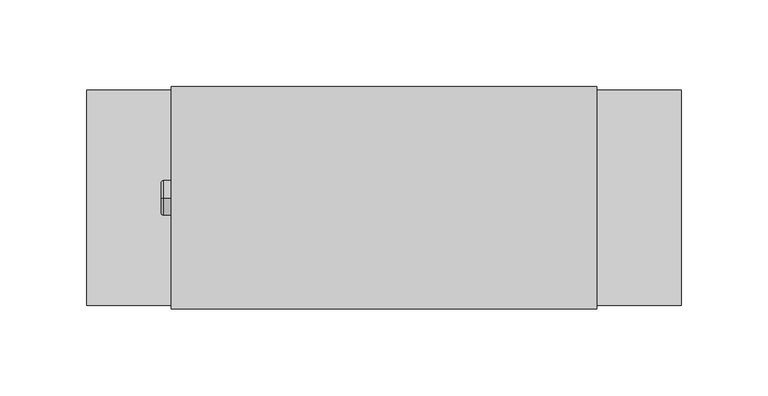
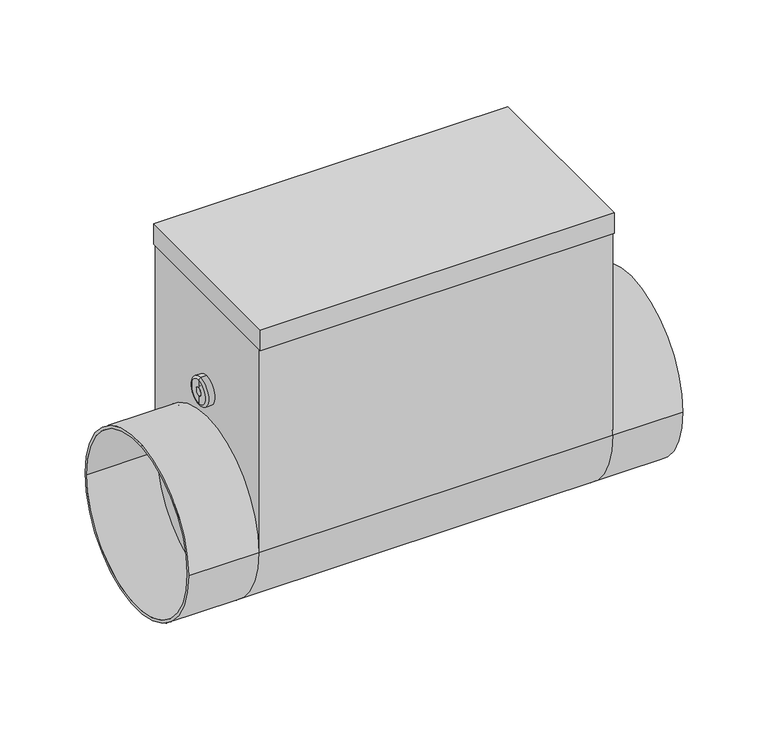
"""IFC4 building model written with IfcOpenShell, lengths in millimetres: proxy geometry."""

from ifc_helpers import new_model, si_unit, point, frame, origin, place, context, project, spatial, polyline, circle_curve, ellipse_curve, trimmed, outline, extrude, source, transform, mapped, element, save
from ifc_brep_helpers import plane_surface, cylinder_surface, revolved_surface, advanced_brep


def mechanical_equipment_6952d556(model_context):
    return source(origin(), model_context, "Body", "SolidModel", [
        extrude(outline(polyline([(122.5, -64.0), (-122.5, -64.0), (-122.5, 64.0), (122.5, 64.0), (122.5, -64.0)])), frame((0.0, 0.0, 149.0), z_axis=(0.0, 0.0, 1.0), x_axis=(1.0, 0.0, 0.0)), (0.0, 0.0, 1.0), 15.0),
        advanced_brep(
        [(-171.0, -62.0, 0.0), (-171.0, 62.0, 0.0), (-171.0, -60.0, 0.0), (-171.0, 60.0, 0.0), (-122.5, 60.0, 0.0), (-122.5, -60.0, 0.0), (-122.5, 62.0, 0.0), (-122.5, -62.0, 0.0), (122.5, -60.0, 0.0), (122.5, 60.0, 0.0), (122.5, -62.0, 149.0), (122.5, -62.0, 0.0), (122.5, 62.0, 0.0), (122.5, 62.0, 149.0), (-122.5, -62.0, 149.0), (-122.5, 62.0, 149.0), (171.0, -62.0, 0.0), (171.0, 62.0, 0.0), (171.0, -60.0, 0.0), (171.0, 60.0, 0.0)],
        [
            (0, 1, circle_curve(frame((-171.0, 0.0, 0.0), z_axis=(-1.0, 0.0, 0.0), x_axis=(0.0, 1.0, 0.0)), 62.0)),
            (1, 0, circle_curve(frame((-171.0, 0.0, 0.0), z_axis=(-1.0, 0.0, 0.0), x_axis=(0.0, 1.0, 0.0)), 62.0)),
            (2, 3, circle_curve(frame((-171.0, 0.0, 0.0), z_axis=(1.0, 0.0, 0.0), x_axis=(0.0, 1.0, 0.0)), 60.0)),
            (3, 2, circle_curve(frame((-171.0, 0.0, 0.0), z_axis=(1.0, 0.0, 0.0), x_axis=(0.0, 1.0, 0.0)), 60.0)),
            (3, 4),
            (4, 5, circle_curve(frame((-122.5, 0.0, 0.0), z_axis=(1.0, 0.0, 0.0), x_axis=(0.0, 1.0, 0.0)), 60.0)),
            (5, 2),
            (5, 4, circle_curve(frame((-122.5, 0.0, 0.0), z_axis=(1.0, 0.0, 0.0), x_axis=(0.0, 1.0, 0.0)), 60.0)),
            (1, 6),
            (6, 7, circle_curve(frame((-122.5, 0.0, 0.0), z_axis=(-1.0, 0.0, 0.0), x_axis=(0.0, 1.0, 0.0)), 62.0)),
            (7, 0),
            (7, 6, circle_curve(frame((-122.5, 0.0, 0.0), z_axis=(-1.0, 0.0, 0.0), x_axis=(0.0, 1.0, 0.0)), 62.0)),
            (8, 9, circle_curve(frame((122.5, 0.0, 0.0), z_axis=(1.0, 0.0, 0.0), x_axis=(0.0, 1.0, 0.0)), 60.0)),
            (9, 8, circle_curve(frame((122.5, 0.0, 0.0), z_axis=(1.0, 0.0, 0.0), x_axis=(0.0, 1.0, 0.0)), 60.0)),
            (10, 11),
            (11, 12, circle_curve(frame((122.5, 0.0, 0.0), z_axis=(-1.0, 0.0, 0.0), x_axis=(0.0, 1.0, 0.0)), 62.0)),
            (12, 13),
            (13, 10),
            (7, 14),
            (14, 15),
            (15, 6),
            (6, 12),
            (12, 11, circle_curve(frame((122.5, 0.0, 0.0), z_axis=(-1.0, 0.0, 0.0), x_axis=(0.0, 1.0, 0.0)), 62.0)),
            (11, 7),
            (16, 17, circle_curve(frame((171.0, 0.0, 0.0), z_axis=(1.0, 0.0, 0.0), x_axis=(0.0, 1.0, 0.0)), 62.0)),
            (17, 16, circle_curve(frame((171.0, 0.0, 0.0), z_axis=(1.0, 0.0, 0.0), x_axis=(0.0, 1.0, 0.0)), 62.0)),
            (18, 19, circle_curve(frame((171.0, 0.0, 0.0), z_axis=(-1.0, 0.0, 0.0), x_axis=(0.0, 1.0, 0.0)), 60.0)),
            (19, 18, circle_curve(frame((171.0, 0.0, 0.0), z_axis=(-1.0, 0.0, 0.0), x_axis=(0.0, 1.0, 0.0)), 60.0)),
            (18, 8),
            (9, 19),
            (16, 11),
            (12, 17),
            (10, 14),
            (15, 13),
        ],
        [
            plane_surface(frame((-171.0, 60.0, 0.0), z_axis=(-1.0, 0.0, 0.0), x_axis=(0.0, 0.0, 1.0))),
            revolved_surface(polyline([(-171.0, 60.0, 0.0), (-122.5, 60.0, 0.0)]), (-171.0, 0.0, 0.0), (-1.0, 0.0, 0.0)),
            cylinder_surface(frame((0.0, 0.0, 0.0), z_axis=(1.0, 0.0, 0.0), x_axis=(0.0, 1.0, 0.0)), 62.0),
            plane_surface(frame((122.5, 62.0, 0.0), z_axis=(1.0, 0.0, 0.0), x_axis=(0.0, -1.0, 0.0))),
            plane_surface(frame((-122.5, 62.0, 0.0), z_axis=(-1.0, 0.0, 0.0), x_axis=(0.0, 1.0, 0.0))),
            cylinder_surface(frame((-122.5, 0.0, 0.0), z_axis=(1.0, 0.0, 0.0), x_axis=(0.0, 1.0, 0.0)), 62.0),
            plane_surface(frame((171.0, 60.0, 0.0), z_axis=(1.0, 0.0, 0.0), x_axis=(0.0, 0.0, -1.0))),
            revolved_surface(polyline([(122.5, 60.0, 0.0), (171.0, 60.0, 0.0)]), (122.5, 0.0, 0.0), (-1.0, 0.0, 0.0)),
            plane_surface(frame((-122.5, -62.0, 149.0), z_axis=(0.0, -1.0, 0.0), x_axis=(-1.0, 0.0, 0.0))),
            plane_surface(frame((-122.5, 62.0, 149.0), z_axis=(0.0, 1.0, 0.0), x_axis=(1.0, 0.0, 0.0))),
            plane_surface(frame((122.5, -62.0, 149.0), z_axis=(0.0, 0.0, 1.0), x_axis=(0.0, 1.0, 0.0))),
        ],
        [
            (0, [[1, 2], [3, 4]]),
            (1, [[-4, 5, 6, 7]]),
            (1, [[-3, -7, 8, -5]]),
            (2, [[-2, 9, 10, 11]]),
            (2, [[-1, -11, 12, -9]]),
            (3, [[13, 14]]),
            (3, [[15, 16, 17, 18]]),
            (4, [[-8, -6]]),
            (4, [[19, 20, 21, -12]]),
            (5, [[-10, 22, 23, 24]]),
            (6, [[25, 26], [27, 28]]),
            (7, [[-27, 29, -14, 30]]),
            (7, [[-28, -30, -13, -29]]),
            (2, [[-25, 31, -23, 32]]),
            (2, [[-26, -32, -16, -31]]),
            (8, [[33, -19, -24, -15]]),
            (9, [[-17, -22, -21, 34]]),
            (10, [[-33, -18, -34, -20]]),
        ],
    ),
        advanced_brep(
        [(-126.7840134, 0.0, 72.0), (-126.7840134, 0.0, 92.0), (-122.5, 0.0, 92.0), (-122.5, 0.0, 72.0), (-128.2459771, 0.0, 73.4619637), (-128.2459771, 0.0, 90.5380363), (-128.2459771, 0.0, 78.8948071), (-128.2459771, 0.0, 85.1051929), (-125.9138357, 0.0, 78.8948071), (-125.9138357, 0.0, 85.1051929), (-125.9138357, 0.0, 82.0), (-122.5, 0.0, 82.0)],
        [
            (0, 1, circle_curve(frame((-126.7840134, 0.0, 82.0), z_axis=(1.0, 0.0, 0.0), x_axis=(0.0, 0.0, 1.0)), 10.0)),
            (1, 2),
            (2, 3, circle_curve(frame((-122.5, 0.0, 82.0), z_axis=(-1.0, 0.0, 0.0), x_axis=(0.0, 0.0, 1.0)), 10.0)),
            (3, 0),
            (1, 0, circle_curve(frame((-126.7840134, 0.0, 82.0), z_axis=(1.0, 0.0, 0.0), x_axis=(0.0, 0.0, 1.0)), 10.0)),
            (3, 2, circle_curve(frame((-122.5, 0.0, 82.0), z_axis=(-1.0, 0.0, 0.0), x_axis=(0.0, 0.0, 1.0)), 10.0)),
            (4, 5, circle_curve(frame((-128.2459771, 0.0, 82.0), z_axis=(1.0, 0.0, 0.0), x_axis=(0.0, 0.0, 1.0)), 8.5380363)),
            (5, 1, circle_curve(frame((-126.7840134, 0.0, 90.5380363), z_axis=(0.0, 1.0, 0.0), x_axis=(1.0, 0.0, 0.0)), 1.4619637)),
            (0, 4, circle_curve(frame((-126.7840134, 0.0, 73.4619637), z_axis=(0.0, 1.0, 0.0), x_axis=(1.0, 0.0, 0.0)), 1.4619637)),
            (5, 4, circle_curve(frame((-128.2459771, 0.0, 82.0), z_axis=(1.0, 0.0, 0.0), x_axis=(0.0, 0.0, 1.0)), 8.5380363)),
            (6, 7, circle_curve(frame((-128.2459771, 0.0, 82.0), z_axis=(1.0, 0.0, 0.0), x_axis=(0.0, 0.0, 1.0)), 3.1051929)),
            (7, 5),
            (4, 6),
            (7, 6, circle_curve(frame((-128.2459771, 0.0, 82.0), z_axis=(1.0, 0.0, 0.0), x_axis=(0.0, 0.0, 1.0)), 3.1051929)),
            (8, 9, circle_curve(frame((-125.9138357, 0.0, 82.0), z_axis=(1.0, 0.0, 0.0), x_axis=(0.0, 0.0, 1.0)), 3.1051929)),
            (9, 7),
            (6, 8),
            (9, 8, circle_curve(frame((-125.9138357, 0.0, 82.0), z_axis=(1.0, 0.0, 0.0), x_axis=(0.0, 0.0, 1.0)), 3.1051929)),
            (10, 9),
            (8, 10),
            (2, 11),
            (11, 3),
        ],
        [
            cylinder_surface(frame((-158.1635229, 0.0, 82.0), z_axis=(-1.0, 0.0, 0.0), x_axis=(0.0, 0.0, 1.0)), 10.0),
            revolved_surface(trimmed(ellipse_curve(frame((-126.7840134, 0.0, 90.5380363), z_axis=(0.0, -1.0, 0.0), x_axis=(1.0, 0.0, 0.0)), 1.4619637, 1.4619637), [point((-126.7840134, 0.0, 92.0))], [point((-128.2459771, 0.0, 90.5380363))], True, "CARTESIAN"), (-158.1635229, 0.0, 82.0), (-1.0, 0.0, 0.0)),
            plane_surface(frame((-128.2459771, 0.0, 82.0), z_axis=(-1.0, 0.0, 0.0), x_axis=(0.0, 0.0, 1.0))),
            revolved_surface(polyline([(-128.2459771, 0.0, 85.1051929), (-125.9138357, 0.0, 85.1051929)]), (-158.1635229, 0.0, 82.0), (-1.0, 0.0, 0.0)),
            plane_surface(frame((-125.9138357, 0.0, 82.0), z_axis=(-1.0, 0.0, 0.0), x_axis=(0.0, 0.0, 1.0))),
            plane_surface(frame((-122.5, 0.0, 82.0), z_axis=(1.0, 0.0, 0.0), x_axis=(0.0, 0.0, 1.0))),
        ],
        [
            (0, [[1, 2, 3, 4]]),
            (0, [[5, -4, 6, -2]]),
            (1, [[7, 8, -1, 9]]),
            (1, [[10, -9, -5, -8]]),
            (2, [[11, 12, -7, 13]]),
            (2, [[14, -13, -10, -12]]),
            (3, [[15, 16, -11, 17]]),
            (3, [[18, -17, -14, -16]]),
            (4, [[19, -15, 20]]),
            (4, [[-20, -18, -19]]),
            (5, [[-3, 21, 22]]),
            (5, [[-6, -22, -21]]),
        ],
    ),
    ])


if __name__ == "__main__":
    model = new_model("IFC4")
    model_context = context("Model", 3, world=origin())
    ifc_project = project(units=[si_unit("LENGTHUNIT", "METRE", prefix="MILLI")], contexts=[model_context])
    site = spatial("IfcSite", under=ifc_project)
    building = spatial("IfcBuilding", under=site)
    placement = place(None, origin())
    mechanical_equipment_shape = mechanical_equipment_6952d556(model_context)
    element("IfcBuildingElementProxy", 1, Name="Mechanical Equipment", at=placement, inside=building, context=model_context, shape_type="MappedRepresentation", body=[
        mapped(mechanical_equipment_shape, transform((0.0, 0.0, 0.0), x_axis=(1.0, 0.0, 0.0), y_axis=(0.0, 1.0, 0.0), z_axis=(0.0, 0.0, 1.0))),
    ])
    save(model, "model.ifc")
